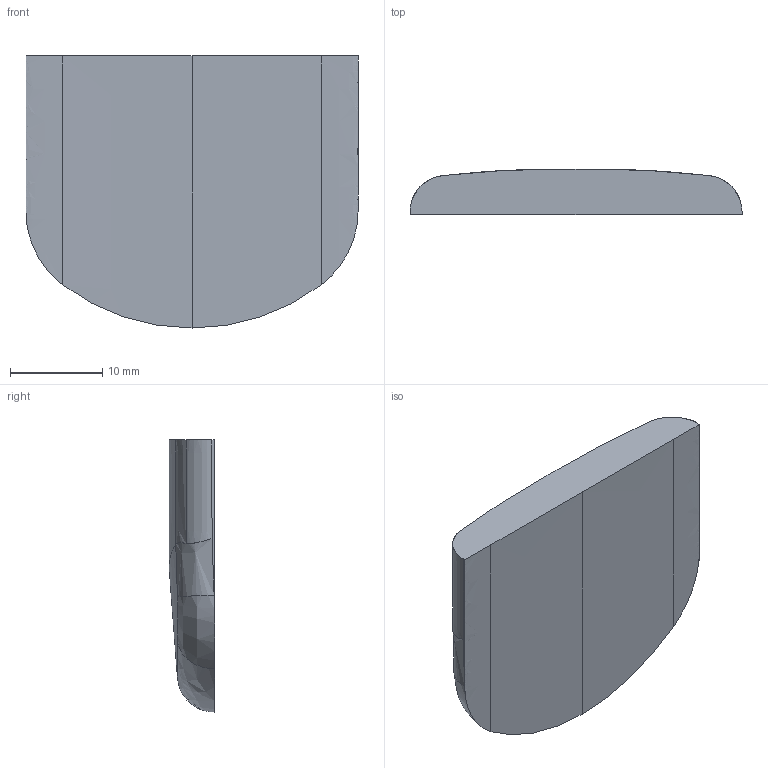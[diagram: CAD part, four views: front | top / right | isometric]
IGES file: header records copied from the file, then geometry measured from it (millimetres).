
Start section:  PTC IGES file: c:\works\pro\keula.igs
Global section: file name: c:\works\pro\keula.igs; native system: Pro/ENGINEER by Parametric Technology Corporation; preprocessor: 2001150; author: telimaa; organization: Unknown; date: 040905.141349; units: millimetre
Bounding box: 36 x 4.93 x 29.5 mm (x, y, z)
Surface area: 2278.1 mm2 (no closed solid volume)
Topology: 0 solids, 0 shells, 25 faces, 120 edges, 120 vertices
Faces by surface type: extrusion 12, bspline 11, revolution 2
